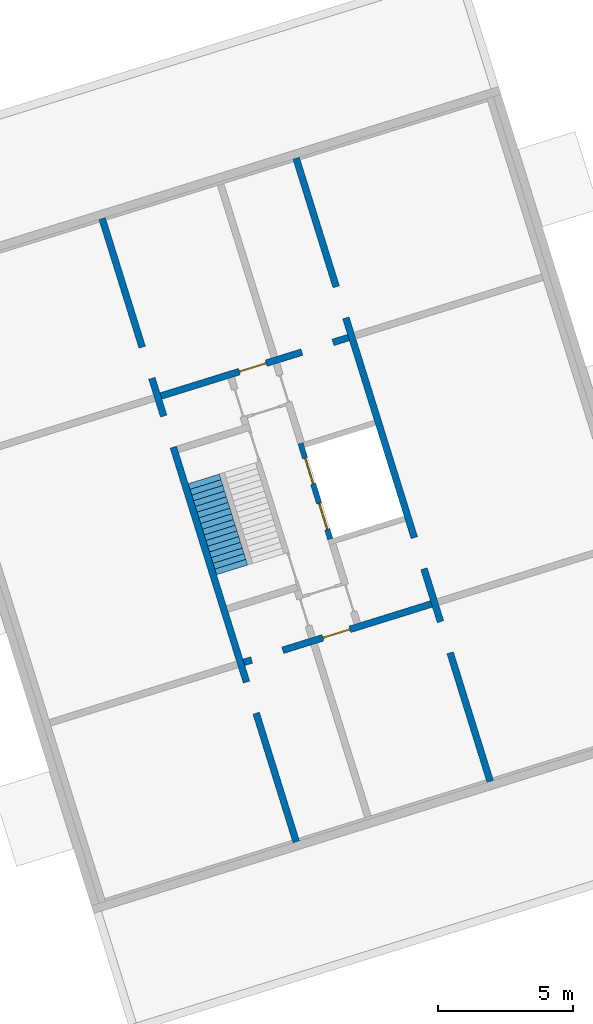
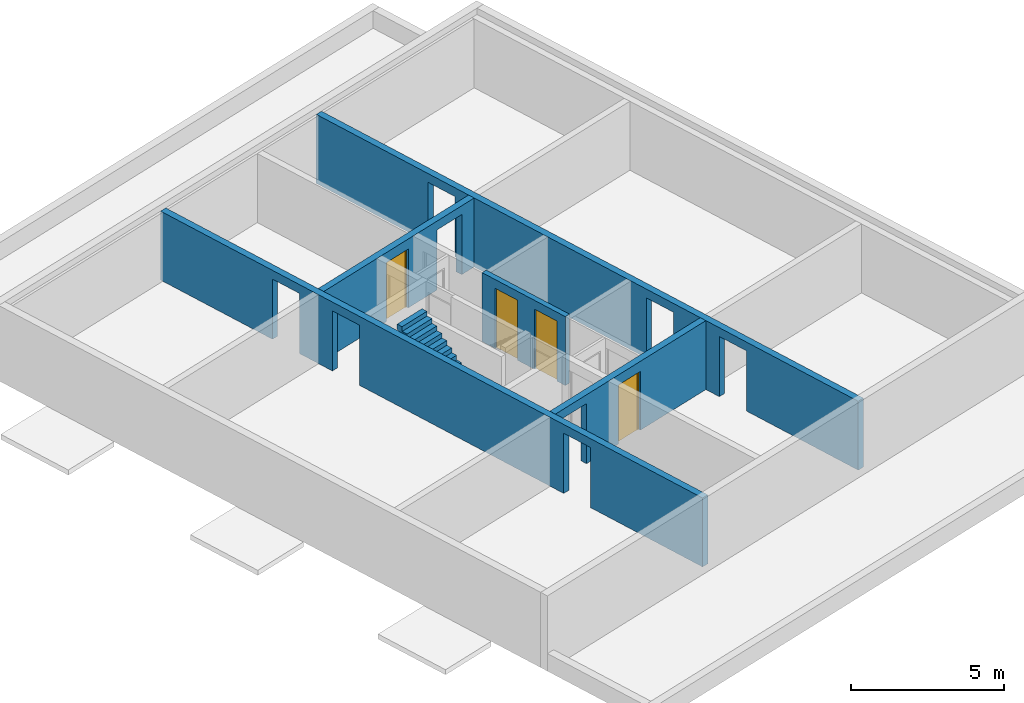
# One storey, part 3 of 4: 5 walls, 4 doors, 1 stair flight, 12 openings, 1 element without a shape of its own.
"""IFC4 building model written with IfcOpenShell, lengths in metres."""

from ifc_helpers import new_model, entity, si_unit, converted_unit, direction, frame, origin, place, context, subcontext, project, spatial, indexed_curve, outline, extrude, polygons, source, transform, mapped, material, constituent, constituent_set, type_object, type_shapes, element, fill, aggregate, save


model = new_model("IFC4")

# Units and contexts
model_context = context("Model", 3, precision=1e-05, world=origin(), true_north=direction((6.12323399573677e-17, 1.0)))
body_context = subcontext(model_context, "Body", "Model", "MODEL_VIEW")
ifc_project = project(units=[si_unit("LENGTHUNIT", "METRE"), si_unit("AREAUNIT", "SQUARE_METRE"), si_unit("VOLUMEUNIT", "CUBIC_METRE"), converted_unit("PLANEANGLEUNIT", "DEGREE", entity("IfcPlaneAngleMeasure", 0.0174532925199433), si_unit("PLANEANGLEUNIT", "RADIAN"), dimensions=[0, 0, 0, 0, 0, 0, 0])], contexts=[model_context])

# Site, building, storey
site_placement = place(None, frame((13.1347999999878, 11.9886000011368, 0.0), z_axis=(0.0, 0.0, 1.0), x_axis=(0.954770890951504, 0.297342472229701, 0.0)))
site = spatial("IfcSite", under=ifc_project, at=site_placement, Name="Schiehaven", CompositionType="ELEMENT")
building_placement = place(site_placement, origin())
building = spatial("IfcBuilding", under=site, at=building_placement, Name="VORM huis", CompositionType="ELEMENT")
storey_placement = place(building_placement, frame((0.0, 0.0, 6.9)))
storey = spatial("IfcBuildingStorey", under=building, at=storey_placement, Name="02 tweede verdieping", CompositionType="ELEMENT", Elevation=6.9)

# Wall, openings
ifc_material_1 = material(Name="beton_gewapend_ihw", Category="Miscellaneous")
wall_type_1 = type_object("IfcWallType", Name="Basic Wall:28_WA_skelet_wand 250mm_gen", PredefinedType="STANDARD")
wall_1_placement = place(storey_placement, frame((72.5000000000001, 5.0, 0.0), z_axis=(0.0, 0.0, 1.0), x_axis=(0.0, 1.0, 0.0)))
wall_1 = element("IfcWall", 1, at=wall_1_placement, inside=storey, type_object=wall_type_1, material=ifc_material_1, Name="Constructieve wand", ObjectType="Wand", PredefinedType="NOTDEFINED", context=body_context, shape_type="Tessellation", body=[
    polygons([(24.1, -0.125000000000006, 1.08286712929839e-15), (24.1, -0.125000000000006, 2.75), (1.08286712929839e-15, -0.125000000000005, 2.75), (1.08286712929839e-15, -0.125000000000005, 1.08286712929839e-15), (4.975, -0.125000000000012, 1.08286712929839e-15), (4.975, -0.124999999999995, 2.4), (6.175, -0.124999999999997, 2.4), (6.175, -0.125000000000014, 1.08286712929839e-15), (8.22500000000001, -0.125000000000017, 1.08286712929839e-15), (8.22500000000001, -0.125, 2.4), (9.425, -0.124999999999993, 2.4), (9.425, -0.125000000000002, 1.08286712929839e-15), (17.925, -0.125000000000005, 1.08286712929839e-15), (17.925, -0.125000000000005, 2.4), (19.125, -0.125000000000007, 2.4), (19.125, -0.125000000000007, 1.08286712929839e-15), (24.1, 0.124999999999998, 2.75), (24.1, 0.124999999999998, 1.08286712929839e-15), (19.125, 0.124999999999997, 1.08286712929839e-15), (19.125, 0.124999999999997, 2.4), (17.925, 0.124999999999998, 2.4), (17.925, 0.124999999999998, 1.08286712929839e-15), (17.325, 0.124999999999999, 0.0), (17.075, 0.125, 0.0), (9.425, 0.125000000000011, 1.08286712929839e-15), (9.425, 0.125000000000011, 2.4), (8.22500000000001, 0.124999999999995, 2.4), (8.22500000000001, 0.124999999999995, 1.08286712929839e-15), (7.025, 0.124999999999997, 0.0), (6.775, 0.124999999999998, 0.0), (6.175, 0.124999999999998, 1.08286712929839e-15), (6.175, 0.124999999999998, 2.4), (4.975, 0.125, 2.4), (4.975, 0.125, 1.08286712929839e-15), (1.08286712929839e-15, 0.124999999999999, 1.08286712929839e-15), (1.08286712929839e-15, 0.124999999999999, 2.75), (6.775, 0.124999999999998, 2.75), (7.025, 0.124999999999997, 2.75), (17.075, 0.125, 2.75), (17.325, 0.124999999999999, 2.75)], [[[1, 2, 3, 4, 5, 6, 7, 8, 9, 10, 11, 12, 13, 14, 15, 16]], [[17, 18, 19, 20, 21, 22, 23, 24, 25, 26, 27, 28, 29, 30, 31, 32, 33, 34, 35, 36, 37, 38, 39, 40]], [[4, 35, 34, 5]], [[2, 1, 18, 17]], [[3, 2, 17, 40, 39, 38, 37, 36]], [[4, 3, 36, 35]], [[6, 33, 32, 7]], [[33, 6, 5, 34]], [[7, 32, 31, 8]], [[10, 27, 26, 11]], [[27, 10, 9, 28]], [[11, 26, 25, 12]], [[14, 21, 20, 15]], [[21, 14, 13, 22]], [[15, 20, 19, 16]], [[8, 31, 30, 29, 28, 9]], [[12, 25, 24, 23, 22, 13]], [[18, 1, 16, 19]]], closed=True),
])
opening_1_placement = place(wall_1_placement, origin())
element("IfcOpeningElement", 2, at=opening_1_placement, cuts=wall_1, Name="Constructieve wand", PredefinedType="OPENING", context=body_context, shape_type="SweptSolid", body=[
    extrude(outline(indexed_curve([(-1.2, -0.599999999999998), (1.2, -0.599999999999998), (1.2, 0.599999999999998), (-1.2, 0.599999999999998), (-1.2, -0.599999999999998)], self_intersect=False)), frame((5.575, -0.124999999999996, 1.2), z_axis=(0.0, 1.0, 0.0), x_axis=(0.0, 0.0, -1.0)), (0.0, 0.0, 1.0), 0.249999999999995),
])
opening_2_placement = place(wall_1_placement, origin())
element("IfcOpeningElement", 3, at=opening_2_placement, cuts=wall_1, Name="Constructieve wand", PredefinedType="OPENING", context=body_context, shape_type="SweptSolid", body=[
    extrude(outline(indexed_curve([(-1.2, -0.599999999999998), (1.2, -0.599999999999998), (1.2, 0.599999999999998), (-1.2, 0.599999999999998), (-1.2, -0.599999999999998)], self_intersect=False)), frame((8.82500000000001, -0.124999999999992, 1.2), z_axis=(0.0, 1.0, 0.0), x_axis=(0.0, 0.0, -1.0)), (0.0, 0.0, 1.0), 0.250000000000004),
])
opening_3_placement = place(wall_1_placement, origin())
element("IfcOpeningElement", 4, at=opening_3_placement, cuts=wall_1, Name="Constructieve wand", PredefinedType="OPENING", context=body_context, shape_type="SweptSolid", body=[
    extrude(outline(indexed_curve([(-1.2, -0.600000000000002), (1.2, -0.600000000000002), (1.2, 0.599999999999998), (-1.2, 0.599999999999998), (-1.2, -0.600000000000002)], self_intersect=False)), frame((18.525, -0.124999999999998, 1.2), z_axis=(0.0, 1.0, 0.0), x_axis=(0.0, 0.0, -1.0)), (0.0, 0.0, 1.0), 0.249999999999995),
])

# Wall, openings, door
wall_2_placement = place(storey_placement, frame((72.3750000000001, 22.1999999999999, 0.0), z_axis=(0.0, 0.0, 1.0), x_axis=(-1.0, 0.0, 0.0)))
wall_2 = element("IfcWall", 5, at=wall_2_placement, inside=storey, type_object=wall_type_1, material=ifc_material_1, Name="Constructieve wand", ObjectType="Wand", PredefinedType="NOTDEFINED", context=body_context, shape_type="Tessellation", body=[
    polygons([(4.22499999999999, -0.124999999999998, 2.34999999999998), (4.22499999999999, -0.124999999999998, 1.08286712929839e-15), (7.24999999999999, -0.124999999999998, 1.08286712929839e-15), (7.24999999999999, -0.124999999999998, 2.75), (5.55409093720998e-16, -0.124999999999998, 2.75), (5.55409093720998e-16, -0.124999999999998, 1.08286712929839e-15), (0.599999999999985, -0.124999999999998, 1.08286712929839e-15), (0.599999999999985, -0.124999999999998, 2.4), (1.79999999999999, -0.124999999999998, 2.4), (1.79999999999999, -0.124999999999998, 1.08286712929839e-15), (3.17499999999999, -0.124999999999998, 1.08286712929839e-15), (3.17499999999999, -0.124999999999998, 2.34999999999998), (7.24999999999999, 0.125000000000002, 1.08286712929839e-15), (4.22499999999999, 0.125000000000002, 1.08286712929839e-15), (4.22499999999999, 0.125000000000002, 2.34999999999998), (3.17499999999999, 0.125000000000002, 2.34999999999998), (3.17499999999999, 0.125000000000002, 1.08286712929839e-15), (1.79999999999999, 0.125000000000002, 1.08286712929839e-15), (1.79999999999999, 0.125000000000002, 2.4), (0.599999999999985, 0.125000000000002, 2.4), (0.599999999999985, 0.125000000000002, 1.08286712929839e-15), (5.49189507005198e-16, 0.125000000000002, 1.08286712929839e-15), (5.49189507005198e-16, 0.125000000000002, 2.75), (7.24999999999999, 0.125000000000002, 2.75)], [[[1, 2, 3, 4, 5, 6, 7, 8, 9, 10, 11, 12]], [[13, 14, 15, 16, 17, 18, 19, 20, 21, 22, 23, 24]], [[6, 22, 21, 7]], [[5, 4, 24, 23]], [[4, 3, 13, 24]], [[17, 16, 12, 11]], [[15, 14, 2, 1]], [[16, 15, 1, 12]], [[20, 8, 7, 21]], [[9, 19, 18, 10]], [[8, 20, 19, 9]], [[6, 5, 23, 22]], [[11, 10, 18, 17]], [[3, 2, 14, 13]]], closed=True),
])
opening_4_placement = place(wall_2_placement, origin())
element("IfcOpeningElement", 6, at=opening_4_placement, cuts=wall_2, Name="Constructieve wand", PredefinedType="OPENING", context=body_context, shape_type="SweptSolid", body=[
    extrude(outline(indexed_curve([(-1.2, -0.600000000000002), (1.2, -0.600000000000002), (1.2, 0.600000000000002), (-1.2, 0.600000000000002), (-1.2, -0.600000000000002)], self_intersect=False)), frame((1.19999999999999, -0.125000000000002, 1.2), z_axis=(0.0, 1.0, 0.0), x_axis=(0.0, 0.0, -1.0)), (0.0, 0.0, 1.0), 0.250000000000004),
])
opening_5_placement = place(wall_2_placement, frame((3.17499999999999, -0.125000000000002, 0.0)))
opening_5 = element("IfcOpeningElement", 7, at=opening_5_placement, cuts=wall_2, Name="Woningtoegangsdeur", PredefinedType="OPENING", context=body_context, shape_type="SweptSolid", body=[
    extrude(outline(indexed_curve([(2.34999999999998, -4.20936625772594e-34), (2.34999999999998, 1.05), (0.0, 1.05), (0.0, -4.20936625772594e-34), (2.34999999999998, -4.20936625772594e-34)], self_intersect=False)), frame((0.0, 0.0, 0.0), z_axis=(0.0, 1.0, 0.0), x_axis=(0.0, 0.0, 1.0)), (0.0, 0.0, 1.0), 0.25),
])
ifc_material_2 = material(Name="PD_a_binnenwandopeningen", Category="Miscellaneous")
ifc_constituent_1 = constituent(ifc_material_2, Name="PD_a_binnenwandopeningen", Category="Miscellaneous")
ifc_material_3 = material(Name="metaal_aluminium_ntb", Category="Miscellaneous")
ifc_constituent_2 = constituent(ifc_material_3, Name="metaal_aluminium_ntb", Category="Miscellaneous")
ifc_constituent_set_1 = constituent_set(constituents=[ifc_constituent_1, ifc_constituent_2])
ifc_constituent_3 = constituent(ifc_material_2, Name="PD_a_binnenwandopeningen", Category="Miscellaneous")
ifc_constituent_4 = constituent(ifc_material_3, Name="Panel", Category="Miscellaneous")
ifc_constituent_set_2 = constituent_set(constituents=[ifc_constituent_3, ifc_constituent_4])
door_type_1 = type_object("IfcDoorType", Name="32_DO_binnendeur enkel:woningtoegangsdeur", OperationType="REVOLVING", PredefinedType="DOOR", material=ifc_constituent_set_2)
shared_shape_1 = source(origin(), body_context, "Body", "SweptSolid", [
    extrude(outline(indexed_curve([(0.475, -1.16249999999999), (0.525000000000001, -1.16249999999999), (0.525000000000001, 1.18749999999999), (-0.525000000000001, 1.18749999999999), (-0.525000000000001, -1.16249999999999), (-0.475, -1.16249999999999), (-0.475, 1.13749999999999), (0.475, 1.13749999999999), (0.475, -1.16249999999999)], self_intersect=False)), frame((0.525000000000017, 0.174999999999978, 1.16249999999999), z_axis=(0.0, -1.0, 0.0), x_axis=(1.0, 0.0, 0.0)), (0.0, 0.0, 1.0), 0.1),
    extrude(outline(indexed_curve([(-0.475, -0.025), (0.475, -0.025), (0.475, 0.025), (-0.475, 0.025), (-0.475, -0.025)], self_intersect=False)), frame((0.525000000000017, 0.12499999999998, 0.0)), (0.0, 0.0, 1.0), 2.29999999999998),
])
type_shapes(door_type_1, [shared_shape_1])
door_1_placement = place(opening_5_placement, origin())
door_1 = element("IfcDoor", 8, at=door_1_placement, inside=storey, type_object=door_type_1, material=ifc_constituent_set_1, Name="Woningtoegangsdeur", ObjectType="Deur", OperationType="REVOLVING", OverallHeight=2.34999999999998, OverallWidth=1.05, PredefinedType="DOOR", context=body_context, shape_type="MappedRepresentation", body=[
    mapped(shared_shape_1, transform((0.0, 0.0, 0.0), scale=1.0)),
])
fill(opening_5, door_1)

# Wall, openings
wall_3_placement = place(storey_placement, frame((65.0, 29.0999999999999, 0.0), z_axis=(0.0, 0.0, 1.0), x_axis=(0.0, -1.0, 0.0)))
wall_3 = element("IfcWall", 9, at=wall_3_placement, inside=storey, type_object=wall_type_1, material=ifc_material_1, Name="Constructieve wand", ObjectType="Wand", PredefinedType="NOTDEFINED", context=body_context, shape_type="Tessellation", body=[
    polygons([(24.1, -0.125, 1.08286712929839e-15), (24.1, -0.125, 2.75), (0.0, -0.125000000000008, 2.75), (0.0, -0.125000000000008, 1.08286712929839e-15), (4.975, -0.125000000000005, 1.08286712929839e-15), (4.975, -0.125000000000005, 2.4), (6.175, -0.125000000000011, 2.4), (6.175, -0.125000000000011, 1.08286712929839e-15), (7.64, -0.125000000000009, 1.08286712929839e-15), (7.64, -0.125000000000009, 2.4), (8.84, -0.124999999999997, 2.4), (8.84, -0.124999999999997, 1.08286712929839e-15), (17.925, -0.125000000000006, 1.08286712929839e-15), (17.925, -0.124999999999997, 2.4), (19.125, -0.125000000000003, 2.4), (19.125, -0.125000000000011, 1.08286712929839e-15), (24.1, 0.124999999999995, 2.75), (24.1, 0.124999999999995, 1.08286712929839e-15), (19.125, 0.125000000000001, 1.08286712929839e-15), (19.125, 0.125000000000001, 2.4), (17.925, 0.125000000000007, 2.4), (17.925, 0.125000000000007, 1.08286712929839e-15), (17.325, 0.124999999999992, 0.0), (17.075, 0.124999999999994, 0.0), (8.84, 0.124999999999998, 1.08286712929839e-15), (8.84, 0.124999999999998, 2.4), (7.64, 0.124999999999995, 2.4), (7.64, 0.124999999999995, 1.08286712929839e-15), (7.025, 0.124999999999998, 0.0), (6.775, 0.124999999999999, 0.0), (6.175, 0.124999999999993, 1.08286712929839e-15), (6.175, 0.124999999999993, 2.4), (4.975, 0.124999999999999, 2.4), (4.975, 0.124999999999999, 1.08286712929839e-15), (0.0, 0.124999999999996, 1.08286712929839e-15), (0.0, 0.124999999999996, 2.75), (6.775, 0.124999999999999, 2.75), (7.025, 0.124999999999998, 2.75), (17.075, 0.124999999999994, 2.75), (17.325, 0.124999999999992, 2.75)], [[[1, 2, 3, 4, 5, 6, 7, 8, 9, 10, 11, 12, 13, 14, 15, 16]], [[17, 18, 19, 20, 21, 22, 23, 24, 25, 26, 27, 28, 29, 30, 31, 32, 33, 34, 35, 36, 37, 38, 39, 40]], [[4, 35, 34, 5]], [[2, 1, 18, 17]], [[3, 2, 17, 40, 39, 38, 37, 36]], [[4, 3, 36, 35]], [[6, 33, 32, 7]], [[33, 6, 5, 34]], [[7, 32, 31, 8]], [[10, 27, 26, 11]], [[27, 10, 9, 28]], [[11, 26, 25, 12]], [[14, 21, 20, 15]], [[21, 14, 13, 22]], [[15, 20, 19, 16]], [[8, 31, 30, 29, 28, 9]], [[12, 25, 24, 23, 22, 13]], [[18, 1, 16, 19]]], closed=True),
])
opening_6_placement = place(wall_3_placement, origin())
element("IfcOpeningElement", 10, at=opening_6_placement, cuts=wall_3, Name="Constructieve wand", PredefinedType="OPENING", context=body_context, shape_type="SweptSolid", body=[
    extrude(outline(indexed_curve([(-1.2, -0.599999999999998), (1.2, -0.599999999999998), (1.2, 0.599999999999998), (-1.2, 0.599999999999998), (-1.2, -0.599999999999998)], self_intersect=False)), frame((5.575, -0.124999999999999, 1.2), z_axis=(0.0, 1.0, 0.0), x_axis=(0.0, 0.0, -1.0)), (0.0, 0.0, 1.0), 0.249999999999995),
])
opening_7_placement = place(wall_3_placement, origin())
element("IfcOpeningElement", 11, at=opening_7_placement, cuts=wall_3, Name="Constructieve wand", PredefinedType="OPENING", context=body_context, shape_type="SweptSolid", body=[
    extrude(outline(indexed_curve([(-1.2, -0.599999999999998), (1.2, -0.599999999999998), (1.2, 0.599999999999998), (-1.2, 0.599999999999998), (-1.2, -0.599999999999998)], self_intersect=False)), frame((8.24, -0.125000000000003, 1.2), z_axis=(0.0, 1.0, 0.0), x_axis=(0.0, 0.0, -1.0)), (0.0, 0.0, 1.0), 0.250000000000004),
])
opening_8_placement = place(wall_3_placement, origin())
element("IfcOpeningElement", 12, at=opening_8_placement, cuts=wall_3, Name="Constructieve wand", PredefinedType="OPENING", context=body_context, shape_type="SweptSolid", body=[
    extrude(outline(indexed_curve([(-1.2, -0.599999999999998), (1.2, -0.599999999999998), (1.2, 0.599999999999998), (-1.2, 0.599999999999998), (-1.2, -0.599999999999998)], self_intersect=False)), frame((18.525, -0.125, 1.2), z_axis=(0.0, 1.0, 0.0), x_axis=(0.0, 0.0, -1.0)), (0.0, 0.0, 1.0), 0.249999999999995),
])

# Wall, openings, door
wall_4_placement = place(storey_placement, frame((65.1250000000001, 11.8999999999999, 0.0)))
wall_4 = element("IfcWall", 13, at=wall_4_placement, inside=storey, type_object=wall_type_1, material=ifc_material_1, Name="Constructieve wand", ObjectType="Wand", PredefinedType="NOTDEFINED", context=body_context, shape_type="Tessellation", body=[
    polygons([(4.09999999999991, -0.125, 2.34999999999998), (4.09999999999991, -0.125, 1.08286712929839e-15), (7.24999999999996, -0.125000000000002, 1.08286712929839e-15), (7.24999999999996, -0.125000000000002, 2.75), (-2.44260404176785e-15, -0.125, 2.75), (-2.44260404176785e-15, -0.125, 1.08286712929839e-15), (0.29999999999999, -0.125000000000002, 1.08286712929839e-15), (0.29999999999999, -0.125000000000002, 2.4), (1.49999999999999, -0.125, 2.4), (1.49999999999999, -0.125, 1.08286712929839e-15), (3.04999999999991, -0.125000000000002, 1.08286712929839e-15), (3.04999999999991, -0.125000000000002, 2.34999999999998), (7.24999999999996, 0.124999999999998, 1.08286712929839e-15), (4.09999999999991, 0.125, 1.08286712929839e-15), (4.09999999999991, 0.125, 2.34999999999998), (3.04999999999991, 0.124999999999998, 2.34999999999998), (3.04999999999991, 0.124999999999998, 1.08286712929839e-15), (1.49999999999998, 0.125, 1.08286712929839e-15), (1.49999999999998, 0.125, 2.4), (0.299999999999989, 0.124999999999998, 2.4), (0.299999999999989, 0.124999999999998, 1.08286712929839e-15), (-3.23016990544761e-15, 0.125, 1.08286712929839e-15), (-3.23016990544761e-15, 0.125, 2.75), (7.24999999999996, 0.124999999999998, 2.75)], [[[1, 2, 3, 4, 5, 6, 7, 8, 9, 10, 11, 12]], [[13, 14, 15, 16, 17, 18, 19, 20, 21, 22, 23, 24]], [[6, 22, 21, 7]], [[5, 4, 24, 23]], [[17, 16, 12, 11]], [[15, 14, 2, 1]], [[16, 15, 1, 12]], [[8, 20, 19, 9]], [[20, 8, 7, 21]], [[9, 19, 18, 10]], [[6, 5, 23, 22]], [[4, 3, 13, 24]], [[11, 10, 18, 17]], [[3, 2, 14, 13]]], closed=True),
])
opening_9_placement = place(wall_4_placement, origin())
element("IfcOpeningElement", 14, at=opening_9_placement, cuts=wall_4, Name="Constructieve wand", PredefinedType="OPENING", context=body_context, shape_type="SweptSolid", body=[
    extrude(outline(indexed_curve([(-1.2, -0.599999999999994), (1.2, -0.599999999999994), (1.2, 0.600000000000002), (-1.2, 0.600000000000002), (-1.2, -0.599999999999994)], self_intersect=False)), frame((0.899999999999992, -0.125, 1.2), z_axis=(0.0, 1.0, 0.0), x_axis=(0.0, 0.0, -1.0)), (0.0, 0.0, 1.0), 0.249999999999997),
])
opening_10_placement = place(wall_4_placement, frame((3.0499999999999, -0.125000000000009, 0.0)))
opening_10 = element("IfcOpeningElement", 15, at=opening_10_placement, cuts=wall_4, Name="Woningtoegangsdeur", PredefinedType="OPENING", context=body_context, shape_type="SweptSolid", body=[
    extrude(outline(indexed_curve([(2.34999999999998, -3.25141127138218e-30), (2.34999999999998, 1.05), (0.0, 1.05), (0.0, -3.25141127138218e-30), (2.34999999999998, -3.25141127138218e-30)], self_intersect=False)), frame((0.0, 0.0, 0.0), z_axis=(0.0, 1.0, 0.0), x_axis=(0.0, 0.0, 1.0)), (0.0, 0.0, 1.0), 0.25),
])
ifc_constituent_5 = constituent(ifc_material_2, Name="PD_a_binnenwandopeningen", Category="Miscellaneous")
ifc_constituent_6 = constituent(ifc_material_3, Name="metaal_aluminium_ntb", Category="Miscellaneous")
ifc_constituent_set_3 = constituent_set(constituents=[ifc_constituent_5, ifc_constituent_6])
door_2_placement = place(opening_10_placement, origin())
door_2 = element("IfcDoor", 16, at=door_2_placement, inside=storey, type_object=door_type_1, material=ifc_constituent_set_3, Name="Woningtoegangsdeur", ObjectType="Deur", OperationType="REVOLVING", OverallHeight=2.34999999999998, OverallWidth=1.05, PredefinedType="DOOR", context=body_context, shape_type="MappedRepresentation", body=[
    mapped(shared_shape_1, transform((0.0, 0.0, 0.0), scale=1.0)),
])
fill(opening_10, door_2)

# Wall, openings, doors
ifc_material_4 = material(Name="beton_gewapend_prefab-element", Category="Miscellaneous")
wall_type_2 = type_object("IfcWallType", Name="Basic Wall:28_WA_skelet_wand 200mm_gen", PredefinedType="STANDARD")
wall_5_placement = place(storey_placement, frame((69.5250000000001, 15.2999999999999, 0.0), z_axis=(0.0, 0.0, 1.0), x_axis=(0.0, 1.0, 0.0)))
wall_5 = element("IfcWall", 17, at=wall_5_placement, inside=storey, type_object=wall_type_2, material=ifc_material_4, Name="Constructieve wand", ObjectType="Wand", PredefinedType="NOTDEFINED", context=body_context, shape_type="Tessellation", body=[
    polygons([(3.69999999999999, -0.100000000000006, 2.75), (3.49999999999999, -0.0999999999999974, 2.75), (0.0, -0.100000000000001, 2.75), (0.0, -0.100000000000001, 1.08286712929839e-15), (0.374999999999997, -0.100000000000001, 1.08286712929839e-15), (0.374999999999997, -0.100000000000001, 2.39999999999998), (1.37499999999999, -0.100000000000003, 2.39999999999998), (1.37499999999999, -0.100000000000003, 1.08286712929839e-15), (2.125, -0.100000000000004, 1.08286712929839e-15), (2.125, -0.100000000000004, 2.39999999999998), (3.125, -0.0999999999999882, 2.39999999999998), (3.125, -0.100000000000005, 1.08286712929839e-15), (3.49999999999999, -0.0999999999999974, 0.0), (3.69999999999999, -0.100000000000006, 1.08286712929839e-15), (0.0, 0.100000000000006, 2.75), (3.69999999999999, 0.1, 2.75), (3.69999999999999, 0.1, 1.08286712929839e-15), (3.125, 0.100000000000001, 1.08286712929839e-15), (3.125, 0.100000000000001, 2.39999999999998), (2.125, 0.100000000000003, 2.39999999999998), (2.125, 0.100000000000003, 1.08286712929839e-15), (1.37499999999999, 0.100000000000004, 1.08286712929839e-15), (1.37499999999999, 0.100000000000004, 2.39999999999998), (0.374999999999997, 0.100000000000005, 2.39999999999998), (0.374999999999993, 0.100000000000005, 1.08286712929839e-15), (0.0, 0.100000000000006, 1.08286712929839e-15)], [[[1, 2, 3, 4, 5, 6, 7, 8, 9, 10, 11, 12, 13, 14]], [[15, 16, 17, 18, 19, 20, 21, 22, 23, 24, 25, 26]], [[5, 4, 26, 25]], [[3, 2, 1, 16, 15]], [[7, 23, 22, 8]], [[24, 6, 5, 25]], [[23, 7, 6, 24]], [[11, 19, 18, 12]], [[20, 10, 9, 21]], [[19, 11, 10, 20]], [[1, 14, 17, 16]], [[4, 3, 15, 26]], [[8, 22, 21, 9]], [[17, 14, 13, 12, 18]]], closed=True),
])
opening_11_placement = place(wall_5_placement, frame((-15.2999999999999, 69.5250000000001, 0.0), z_axis=(0.0, 0.0, 1.0), x_axis=(0.0, -1.0, 0.0)))
opening_11 = element("IfcOpeningElement", 18, at=opening_11_placement, cuts=wall_5, Name="Brandweerlift", PredefinedType="OPENING", context=body_context, shape_type="SweptSolid", body=[
    extrude(outline(indexed_curve([(-1.19999999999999, -0.499999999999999), (1.19999999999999, -0.499999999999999), (1.19999999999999, 0.500000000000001), (-1.19999999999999, 0.500000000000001), (-1.19999999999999, -0.499999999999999)], self_intersect=False)), frame((70.0126380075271, 16.1749999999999, 1.19999999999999), z_axis=(-1.0, 0.0, 0.0), x_axis=(0.0, 0.0, -1.0)), (0.0, 0.0, 1.0), 0.756310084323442),
])
opening_12_placement = place(wall_5_placement, frame((-15.2999999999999, 69.5250000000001, 0.0), z_axis=(0.0, 0.0, 1.0), x_axis=(0.0, -1.0, 0.0)))
opening_12 = element("IfcOpeningElement", 19, at=opening_12_placement, cuts=wall_5, Name="Brandweerlift", PredefinedType="OPENING", context=body_context, shape_type="SweptSolid", body=[
    extrude(outline(indexed_curve([(-1.19999999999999, -0.499999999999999), (1.19999999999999, -0.499999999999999), (1.19999999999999, 0.500000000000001), (-1.19999999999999, 0.500000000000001), (-1.19999999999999, -0.499999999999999)], self_intersect=False)), frame((70.0126380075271, 17.9249999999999, 1.19999999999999), z_axis=(-1.0, 0.0, 0.0), x_axis=(0.0, 0.0, -1.0)), (0.0, 0.0, 1.0), 0.756310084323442),
])
door_type_2 = type_object("IfcDoorType", Name="66_WI_liftdeur:brandweerlift - tweezijdig toegankelijk", OperationType="NOTDEFINED", PredefinedType="DOOR", material=ifc_material_3)
shared_shape_2 = source(origin(), body_context, "Body", "SweptSolid", [
    extrude(outline(indexed_curve([(-0.25, -0.0250000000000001), (0.25, -0.0249999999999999), (0.25, 0.0250000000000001), (-0.25, 0.0249999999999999), (-0.25, -0.0250000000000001)], self_intersect=False)), frame((0.750000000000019, -0.28763800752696, 0.0)), (0.0, 0.0, 1.0), 2.39999999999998),
    extrude(outline(indexed_curve([(-0.25, -0.0250000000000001), (0.25, -0.0249999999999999), (0.25, 0.0250000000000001), (-0.25, 0.0249999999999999), (-0.25, -0.0250000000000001)], self_intersect=False)), frame((0.250000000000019, -0.287638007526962, 0.0)), (0.0, 0.0, 1.0), 2.39999999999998),
])
type_shapes(door_type_2, [shared_shape_2])
door_3_placement = place(opening_11_placement, frame((69.2373619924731, 15.6749999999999, 0.0), z_axis=(0.0, 0.0, 1.0), x_axis=(0.0, 1.0, 0.0)))
door_3 = element("IfcDoor", 20, at=door_3_placement, inside=storey, type_object=door_type_2, material=ifc_material_3, Name="Brandweerlift", ObjectType="Transport", OperationType="NOTDEFINED", OverallHeight=2.39999999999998, OverallWidth=1.0, PredefinedType="DOOR", context=body_context, shape_type="MappedRepresentation", body=[
    mapped(shared_shape_2, transform((0.0, 0.0, 0.0), scale=1.0)),
])
fill(opening_11, door_3)
door_4_placement = place(opening_12_placement, frame((69.2373619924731, 17.4249999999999, 0.0), z_axis=(0.0, 0.0, 1.0), x_axis=(0.0, 1.0, 0.0)))
door_4 = element("IfcDoor", 21, at=door_4_placement, inside=storey, type_object=door_type_2, material=ifc_material_3, Name="Brandweerlift", ObjectType="Transport", OperationType="NOTDEFINED", OverallHeight=2.39999999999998, OverallWidth=1.0, PredefinedType="DOOR", context=body_context, shape_type="MappedRepresentation", body=[
    mapped(shared_shape_2, transform((0.0, 0.0, 0.0), scale=1.0)),
])
fill(opening_12, door_4)

# Stair, stair flight
stair_type = type_object("IfcStairType", Name="Trap", PredefinedType="STRAIGHT_RUN_STAIR")
stair_placement = place(storey_placement, origin())
stair = element("IfcStair", 22, at=stair_placement, inside=storey, type_object=stair_type, Name="Hoofdtrap", ObjectType="Trap", PredefinedType="STRAIGHT_RUN_STAIR")
stair_flight_type = type_object("IfcStairFlightType", Name="Monolithic Run:NLRS_24_STRR_trap-beton prefab-monolithisch-recht_gen_rsf", PredefinedType="STRAIGHT")
stair_flight_placement = place(stair_placement, frame((65.1250000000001, 15.2899999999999, 0.0)))
stair_flight = element("IfcStairFlight", 23, at=stair_flight_placement, type_object=stair_flight_type, material=ifc_material_4, Name="Hoofdtrap Run 1", ObjectType="Monolithic Run:NLRS_24_STRR_trap-beton prefab-monolithisch-recht_gen_rsf", PredefinedType="STRAIGHT", context=body_context, shape_type="Tessellation", body=[
    polygons([(0.0, 0.219999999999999, 0.1875), (0.0, 1.77635683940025e-15, 0.1875), (1.2, 1.77635683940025e-15, 0.1875), (1.2, 0.219999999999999, 0.1875), (1.2, 1.77635683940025e-15, 1.77635683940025e-15), (1.2, 0.219999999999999, 1.77635683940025e-15), (0.0, 1.77635683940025e-15, 1.77635683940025e-15), (0.0, 0.219999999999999, 1.77635683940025e-15), (0.0, 0.44, 0.375000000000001), (0.0, 0.219999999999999, 0.375000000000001), (1.2, 0.219999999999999, 0.375000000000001), (1.2, 0.44, 0.375000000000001), (1.2, 0.231248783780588, 1.77635683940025e-15), (1.2, 0.44, 0.177912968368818), (0.0, 0.44, 0.177912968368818), (0.0, 0.231248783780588, 1.77635683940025e-15), (0.0, 0.66, 0.5625), (0.0, 0.44, 0.5625), (1.2, 0.44, 0.5625), (1.2, 0.66, 0.5625), (1.2, 0.660000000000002, 0.365412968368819), (0.0, 0.660000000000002, 0.365412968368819), (0.0, 0.879999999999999, 0.750000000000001), (0.0, 0.66, 0.750000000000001), (1.2, 0.66, 0.750000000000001), (1.2, 0.879999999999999, 0.750000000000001), (1.2, 0.880000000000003, 0.55291296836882), (0.0, 0.880000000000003, 0.55291296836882), (0.0, 1.1, 0.937499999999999), (0.0, 0.880000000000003, 0.937500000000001), (1.2, 0.880000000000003, 0.937500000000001), (1.2, 1.1, 0.937500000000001), (1.2, 1.1, 0.74041296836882), (0.0, 1.1, 0.74041296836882), (0.0, 1.32, 1.125), (0.0, 1.1, 1.125), (1.2, 1.1, 1.125), (1.2, 1.32, 1.125), (1.2, 1.32, 0.927912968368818), (0.0, 1.32, 0.927912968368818), (0.0, 1.53999999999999, 1.3125), (0.0, 1.32, 1.3125), (1.2, 1.32, 1.3125), (1.2, 1.54, 1.3125), (1.2, 1.54, 1.11541296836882), (0.0, 1.54, 1.11541296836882), (0.0, 1.75999999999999, 1.5), (0.0, 1.53999999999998, 1.5), (1.2, 1.53999999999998, 1.5), (1.2, 1.75999999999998, 1.5), (1.2, 1.75999999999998, 1.3029129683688), (0.0, 1.75999999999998, 1.3029129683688), (-1.4210854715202e-14, 1.98, 1.6875), (-1.4210854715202e-14, 1.76, 1.6875), (1.19999999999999, 1.76, 1.6875), (1.19999999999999, 1.98, 1.6875), (1.19999999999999, 1.98, 1.49041296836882), (-1.4210854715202e-14, 1.98, 1.49041296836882), (-1.4210854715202e-14, 2.2, 1.875), (-1.4210854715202e-14, 1.98, 1.875), (1.19999999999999, 1.98, 1.875), (1.19999999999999, 2.2, 1.875), (1.19999999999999, 2.2, 1.67791296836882), (-1.4210854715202e-14, 2.2, 1.67791296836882), (-1.4210854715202e-14, 2.42, 2.0625), (-1.4210854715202e-14, 2.2, 2.0625), (1.19999999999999, 2.2, 2.0625), (1.19999999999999, 2.42, 2.0625), (1.19999999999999, 2.42, 1.86541296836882), (-1.4210854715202e-14, 2.42, 1.86541296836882), (-1.4210854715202e-14, 2.64, 2.25), (-1.4210854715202e-14, 2.42, 2.25), (1.19999999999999, 2.42, 2.25), (1.19999999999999, 2.64, 2.25), (1.19999999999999, 2.64, 2.05291296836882), (-1.4210854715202e-14, 2.64, 2.05291296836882), (-1.4210854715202e-14, 2.86, 2.4375), (-1.4210854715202e-14, 2.64, 2.4375), (1.19999999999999, 2.64, 2.4375), (1.19999999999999, 2.86, 2.4375), (1.19999999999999, 2.86, 2.24041296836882), (-1.4210854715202e-14, 2.86, 2.24041296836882), (-1.4210854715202e-14, 3.08, 2.625), (-1.4210854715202e-14, 2.86, 2.625), (1.19999999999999, 2.86, 2.625), (1.19999999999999, 3.08, 2.625), (1.19999999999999, 3.08, 2.42791296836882), (-1.4210854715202e-14, 3.08, 2.42791296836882), (-1.4210854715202e-14, 3.3, 2.8125), (-1.4210854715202e-14, 3.08, 2.8125), (1.19999999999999, 3.08, 2.8125), (1.19999999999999, 3.3, 2.8125), (1.19999999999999, 3.3, 2.61541296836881), (-1.4210854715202e-14, 3.3, 2.61541296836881), (-1.4210854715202e-14, 3.52, 3.0), (-1.4210854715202e-14, 3.3, 3.0), (1.19999999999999, 3.3, 3.0), (1.19999999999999, 3.52, 3.0), (1.19999999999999, 3.52, 2.80291296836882), (-1.4210854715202e-14, 3.52, 2.80291296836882)], [[[1, 2, 3, 4]], [[4, 3, 5, 6]], [[3, 2, 7, 5]], [[2, 1, 8, 7]], [[9, 10, 11, 12]], [[4, 6, 13, 14, 12, 11]], [[1, 4, 11, 10]], [[8, 1, 10, 9, 15, 16]], [[17, 18, 19, 20]], [[20, 19, 12, 14, 21]], [[9, 12, 19, 18]], [[18, 17, 22, 15, 9]], [[23, 24, 25, 26]], [[26, 25, 20, 21, 27]], [[17, 20, 25, 24]], [[24, 23, 28, 22, 17]], [[29, 30, 31, 32]], [[32, 31, 26, 27, 33]], [[23, 26, 31, 30]], [[30, 29, 34, 28, 23]], [[35, 36, 37, 38]], [[38, 37, 32, 33, 39]], [[29, 32, 37, 36]], [[36, 35, 40, 34, 29]], [[41, 42, 43, 44]], [[44, 43, 38, 39, 45]], [[35, 38, 43, 42]], [[42, 41, 46, 40, 35]], [[47, 48, 49, 50]], [[50, 49, 44, 45, 51]], [[41, 44, 49, 48]], [[48, 47, 52, 46, 41]], [[53, 54, 55, 56]], [[56, 55, 50, 51, 57]], [[47, 50, 55, 54]], [[54, 53, 58, 52, 47]], [[59, 60, 61, 62]], [[62, 61, 56, 57, 63]], [[53, 56, 61, 60]], [[60, 59, 64, 58, 53]], [[65, 66, 67, 68]], [[68, 67, 62, 63, 69]], [[59, 62, 67, 66]], [[66, 65, 70, 64, 59]], [[71, 72, 73, 74]], [[74, 73, 68, 69, 75]], [[65, 68, 73, 72]], [[72, 71, 76, 70, 65]], [[77, 78, 79, 80]], [[80, 79, 74, 75, 81]], [[71, 74, 79, 78]], [[78, 77, 82, 76, 71]], [[83, 84, 85, 86]], [[86, 85, 80, 81, 87]], [[77, 80, 85, 84]], [[84, 83, 88, 82, 77]], [[89, 90, 91, 92]], [[92, 91, 86, 87, 93]], [[83, 86, 91, 90]], [[90, 89, 94, 88, 83]], [[95, 96, 97, 98]], [[98, 97, 92, 93, 99]], [[89, 92, 97, 96]], [[96, 95, 100, 94, 89]], [[95, 98, 99, 100]], [[7, 8, 16, 13, 6, 5]], [[13, 16, 15, 22, 28, 34, 40, 46, 52, 58, 64, 70, 76, 82, 88, 94, 100, 99, 93, 87, 81, 75, 69, 63, 57, 51, 45, 39, 33, 27, 21, 14]]], closed=True),
])
aggregate(stair, [stair_flight])

save(model, "model.ifc")
